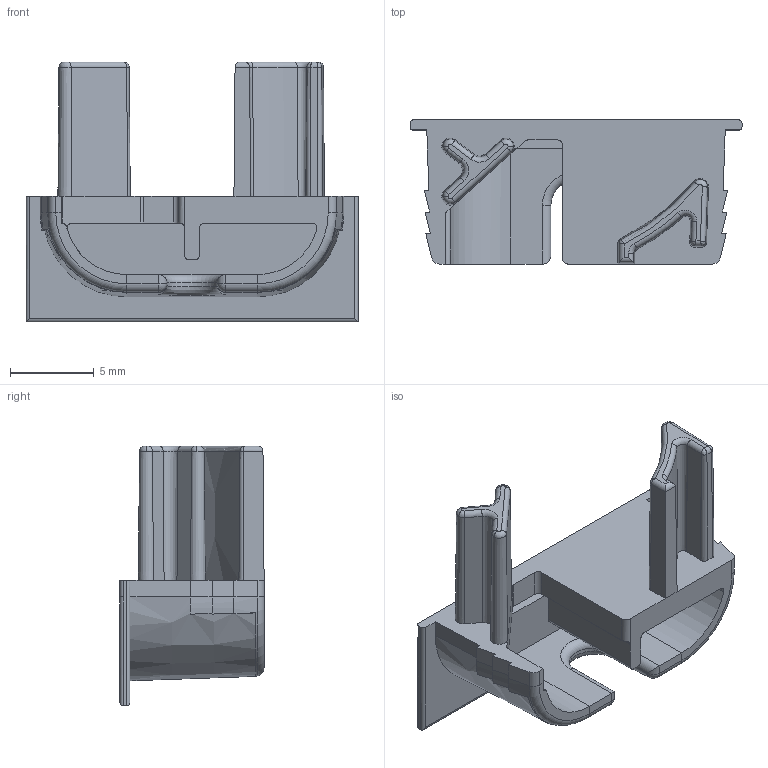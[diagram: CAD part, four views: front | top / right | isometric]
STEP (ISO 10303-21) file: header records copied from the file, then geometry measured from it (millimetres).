
FILE_DESCRIPTION (( 'STEP AP203' ), '1' );
FILE_NAME ('Endkappen_ChannelLine_S2_L_24.STEP', '2024-11-29T08:18:20', ( '' ), ( '' ), 'SwSTEP 2.0', 'SolidWorks 2023', '' );
FILE_SCHEMA (( 'CONFIG_CONTROL_DESIGN' ));
Length unit declared in the file: millimetre
Products named in the file (1): Endkappen_ChannelLine_S2_L_24
Bounding box: 19.8 x 8.6 x 15.5 mm (x, y, z)
Volume: 608.8 mm3; surface area: 1105.1 mm2
Topology: 1 solids, 1 shells, 162 faces, 400 edges, 235 vertices
Faces by surface type: plane 69, cylinder 45, cone 25, torus 17, bspline 4, sphere 2
Entity records: 5745 total; most frequent: CARTESIAN_POINT 1871, DIRECTION 819, ORIENTED_EDGE 790, EDGE_CURVE 395, AXIS2_PLACEMENT_3D 292, VERTEX_POINT 235, LINE 235, VECTOR 235
